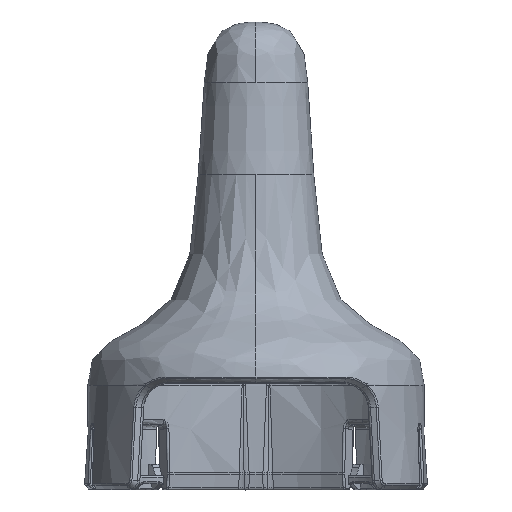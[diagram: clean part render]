
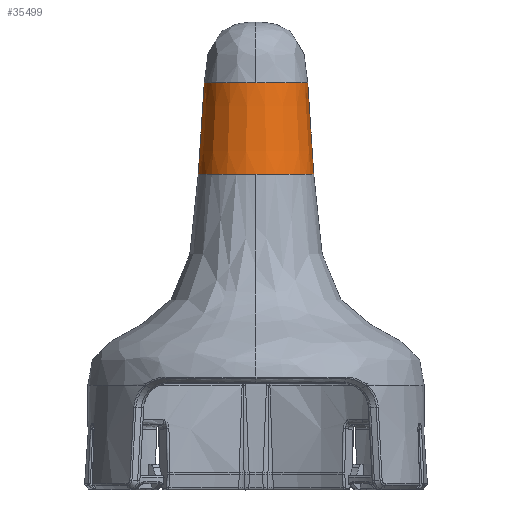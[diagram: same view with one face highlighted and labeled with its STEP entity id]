
A CAD part, front view. The second image highlights one B-rep face of the part: STEP entity #35499.
In plain terms, the highlighted conical face has half-angle 3.794 degrees and reference radius 8.47 mm.
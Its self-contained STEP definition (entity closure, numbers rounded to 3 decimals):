
#9642=CARTESIAN_POINT('',(-253.275,-92.597,
900.115));
#9643=DIRECTION('',(0.,0.,-1.));
#9644=DIRECTION('',(0.,-1.,0.));
#9645=AXIS2_PLACEMENT_3D('',#9642,#9643,#9644);
#9733=CARTESIAN_POINT('',(-253.275,-92.597,
900.115));
#9734=DIRECTION('',(0.,0.,-1.));
#9735=DIRECTION('',(1.,0.,0.));
#9736=AXIS2_PLACEMENT_3D('',#9733,#9734,#9735);
#11003=DIRECTION('',(-0.066,0.,0.998));
#11004=VECTOR('',#11003,14.201);
#11005=CARTESIAN_POINT('',(-244.336,-92.597,
900.115));
#11006=LINE('',#11005,#11004);
#11007=DIRECTION('',(0.066,0.,0.998));
#11008=VECTOR('',#11007,14.201);
#11009=CARTESIAN_POINT('',(-262.214,-92.597,
900.115));
#11010=LINE('',#11009,#11008);
#11011=CARTESIAN_POINT('',(-253.275,-100.597,
914.284));
#11016=CARTESIAN_POINT('',(-253.275,-92.597,
914.284));
#11017=DIRECTION('',(0.,0.,1.));
#11018=DIRECTION('',(-1.,0.,0.));
#11019=AXIS2_PLACEMENT_3D('',#11016,#11017,#11018);
#11036=CARTESIAN_POINT('',(-253.275,-92.597,
914.284));
#11037=DIRECTION('',(0.,0.,1.));
#11038=DIRECTION('',(0.,-1.,0.));
#11039=AXIS2_PLACEMENT_3D('',#11036,#11037,#11038);
#13095=CARTESIAN_POINT('',(-244.336,-92.597,
900.115));
#13096=CARTESIAN_POINT('',(-245.275,-92.597,
914.284));
#13097=VERTEX_POINT('',#13095);
#13098=VERTEX_POINT('',#13096);
#13099=VERTEX_POINT('',#11011);
#13103=CARTESIAN_POINT('',(-262.214,-92.597,
900.115));
#13104=CARTESIAN_POINT('',(-261.275,-92.597,
914.284));
#13105=VERTEX_POINT('',#13103);
#13106=VERTEX_POINT('',#13104);
#13110=CARTESIAN_POINT('',(-253.275,-101.537,
900.115));
#13111=VERTEX_POINT('',#13110);
#35482=CARTESIAN_POINT('',(-253.275,-92.597,
907.199));
#35483=DIRECTION('',(0.,0.,-1.));
#35484=DIRECTION('',(-1.,0.,0.));
#35485=AXIS2_PLACEMENT_3D('',#35482,#35483,#35484);
#35486=CONICAL_SURFACE('',#35485,8.47,3.794);
#35488=ORIENTED_EDGE('',*,*,#35487,.F.);
#35489=ORIENTED_EDGE('',*,*,#32254,.T.);
#35490=ORIENTED_EDGE('',*,*,#32212,.T.);
#35492=ORIENTED_EDGE('',*,*,#35491,.T.);
#35494=ORIENTED_EDGE('',*,*,#35493,.T.);
#35496=ORIENTED_EDGE('',*,*,#35495,.T.);
#35497=EDGE_LOOP('',(#35488,#35489,#35490,#35492,#35494,#35496));
#35498=FACE_OUTER_BOUND('',#35497,.F.);
#35499=ADVANCED_FACE('',(#35498),#35486,.T.);
#9646=CIRCLE('',#9645,8.939);
#9737=CIRCLE('',#9736,8.939);
#11020=CIRCLE('',#11019,8.);
#11040=CIRCLE('',#11039,8.);
#32212=EDGE_CURVE('',#13111,#13105,#9646,.T.);
#32254=EDGE_CURVE('',#13097,#13111,#9737,.T.);
#35487=EDGE_CURVE('',#13097,#13098,#11006,.T.);
#35491=EDGE_CURVE('',#13105,#13106,#11010,.T.);
#35493=EDGE_CURVE('',#13106,#13099,#11020,.T.);
#35495=EDGE_CURVE('',#13099,#13098,#11040,.T.);
